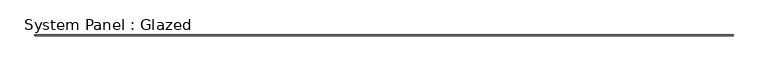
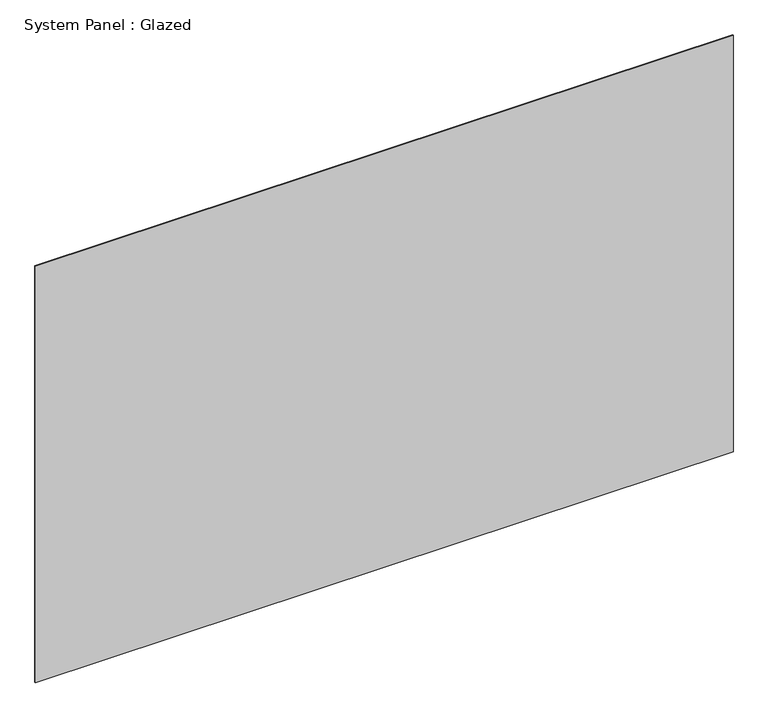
"""IFC4 building model written with IfcOpenShell, lengths in millimetres: plate geometry, System Panel : Glazed."""

from ifc_helpers import new_model, si_unit, origin, origin_with_axes, place, context, project, spatial, polyline, outline, extrude, source, transform, mapped, element, save


def system_panel_glazed_603ace41(model_context):
    return source(origin(), model_context, "Body", "SweptSolid", [
        extrude(outline(polyline([(9982.1994186, -49.5), (-9982.1994186, -49.5), (-9982.1994186, -24.5), (9982.1994186, -24.5), (9982.1994186, -49.5)])), origin_with_axes(), (0.0, 0.0, 1.0), 12600.0),
    ])


if __name__ == "__main__":
    model = new_model("IFC4")
    model_context = context("Model", 3, world=origin())
    ifc_project = project(units=[si_unit("LENGTHUNIT", "METRE", prefix="MILLI")], contexts=[model_context])
    site = spatial("IfcSite", under=ifc_project)
    building = spatial("IfcBuilding", under=site)
    placement = place(None, origin())
    system_panel_glazed_shape = system_panel_glazed_603ace41(model_context)
    element("IfcPlate", 1, ObjectType="System Panel : Glazed", at=placement, inside=building, context=model_context, shape_type="MappedRepresentation", body=[
        mapped(system_panel_glazed_shape, transform((0.0, 0.0, 0.0), x_axis=(1.0, 0.0, 0.0), y_axis=(0.0, 1.0, 0.0), z_axis=(0.0, 0.0, 1.0))),
    ])
    save(model, "model.ifc")
